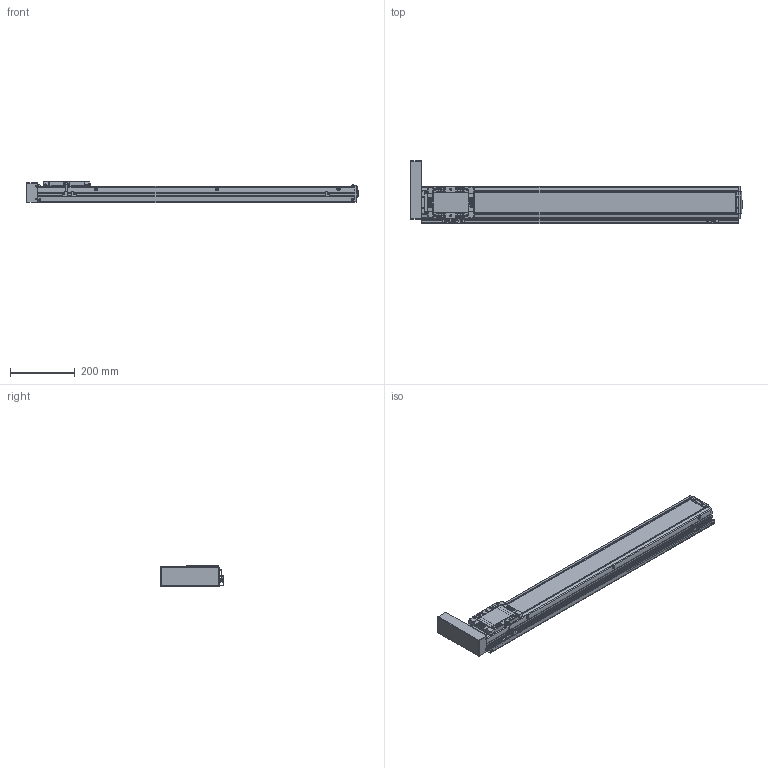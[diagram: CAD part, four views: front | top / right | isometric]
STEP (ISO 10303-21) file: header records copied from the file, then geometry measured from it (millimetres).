
FILE_DESCRIPTION(('STEP AP214'),'1');
FILE_NAME('Z:/Web/3D/SAN100/SAN100 양산용 (STEP)/SAN100ㅁㅁ-800PL+3SR.stp','2013-04-30T01:24:20',(' '),(' '),'Spatial InterOp 3D',' ',' ');
FILE_SCHEMA(('automotive_design'));
Length unit declared in the file: millimetre
Products named in the file (51): EE-SX674; SBK-SX674-352; 스크루 : Round - M3.0 x 6.0; M3.0 x 6.0; SRL-16x17-380L; SGD-SAN100; BTCV-SAN65; BHCS M3 X 6L; SUS COVER; SFX-SAN100; RRCV-SAN100; 스크루 : Round - M4.0 x 10.0; FRBL-SAN100; SLBL-SAN100; SLCV-SAN100; 스크루 : Countersunk - M3.0 x 6.0; BASE; 스크루 : Round - M5.0 x 6.0
Bounding box: 1026.5 x 197.06 x 66 mm (x, y, z)
Volume: 3111845.6 mm3; surface area: 801508.6 mm2
Topology: 51 solids, 52 shells, 2487 faces, 6486 edges, 4193 vertices
Faces by surface type: plane 1312, cylinder 863, cone 210, sphere 68, torus 18, bspline 16
Entity records: 98196 total; most frequent: CARTESIAN_POINT 14759, DIRECTION 13649, ORIENTED_EDGE 12768, EDGE_CURVE 6384, AXIS2_PLACEMENT_3D 4856, VERTEX_POINT 4193, LINE 3937, VECTOR 3937
